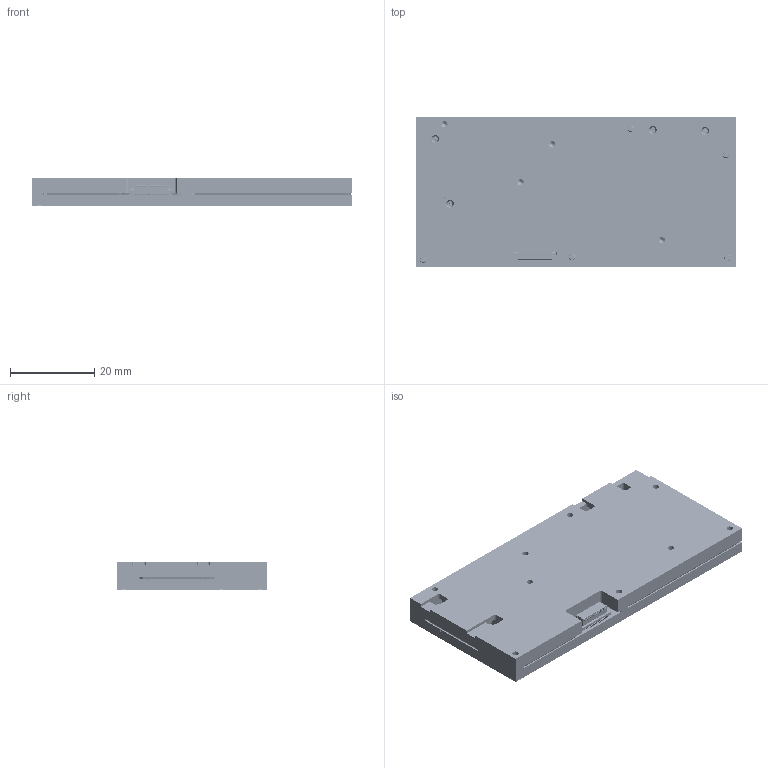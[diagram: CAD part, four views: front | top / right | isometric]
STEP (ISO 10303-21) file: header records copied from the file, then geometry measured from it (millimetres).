
FILE_DESCRIPTION(('FreeCAD Model'),'2;1');
FILE_NAME('C:/Users/Daniel/Dropbox (Atlanta Micro)/Designs/AM9018 0.1 - 26.5 GHz Mini Module/Mechanical/Customer 3D Model/AM9018 Mechanical Model.step', '2021-12-16T09:50:20',('Author'),(''), 'Open CASCADE STEP processor 7.3','FreeCAD','Unknown');
FILE_SCHEMA(('AUTOMOTIVE_DESIGN { 1 0 10303 214 1 1 1 1 }'));
Products named in the file (22): Bottom_Cover_001; Flat_Head_1-72_5_16_Screw_014; Flat_Head_1-72_5_16_Screw_016; Flat_Head_1-72_5_16_Screw_008; Flat_Head_1-72_5_16_Screw_009; Flat_Head_1-72_5_16_Screw_010; Flat_Head_1-72_5_16_Screw_015; Flat_Head_1-72_5_16_Screw_018; Flat_Head_1-72_5_16_Screw_011; Flat_Head_1-72_5_16_Screw_012; Flat_Head_1-72_5_16_Screw_013; Flat_Head_1-72_5_16_Screw_017; Flat_Head_1-72_5_16_Screw_019; AMPCB9030_Rev11_001; Flat_Head_1-72_5_16_Screw_004; Flat_Head_1-72_5_16_Screw_005; Flat_Head_1-72_5_16_Screw_006; Flat_Head_1-72_5_16_Screw_007; Flat_Head_1-72_5_16_Screw_001; Top_Cover_001; Flat_Head_1-72_5_16_Screw_002; Flat_Head_1-72_5_16_Screw_003
Bounding box: 76.29 x 35.74 x 6.73 mm (x, y, z)
Volume: 3780.1 mm3; surface area: 25971.6 mm2
Topology: 65 solids, 80 shells, 5352 faces, 19952 edges, 14787 vertices
Faces by surface type: revolution 1900, bspline 1305, plane 1263, cylinder 754, cone 126, torus 4
Full cylindrical faces by diameter (mm): 0.272 x4, 0.282 x4, 0.432 x4, 0.508 x8, 0.58 x8, 0.65 x2, 1.196 x4, 1.651 x2
Entity records: 596467 total; most frequent: CARTESIAN_POINT 243376, ORIENTED_EDGE 39540, PCURVE 39540, DEFINITIONAL_REPRESENTATION 39540, B_SPLINE_CURVE_WITH_KNOTS 36712, DIRECTION 33246, EDGE_CURVE 19870, SURFACE_CURVE 19822
